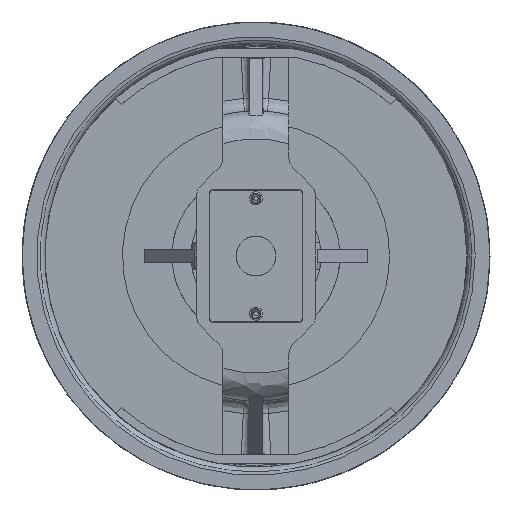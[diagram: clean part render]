
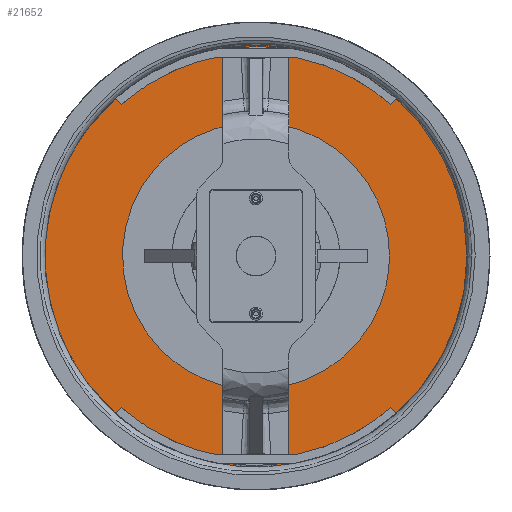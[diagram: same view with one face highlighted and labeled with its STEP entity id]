
A CAD part, front view. The second image highlights one B-rep face of the part: STEP entity #21652.
In plain terms, the highlighted free-form (B-spline) face has degree [1, 1] with [2, 2] control points.
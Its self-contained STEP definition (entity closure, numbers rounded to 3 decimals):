
#21594=CARTESIAN_POINT('V34',(40.5,21.5,
   0.));
#21595=VERTEX_POINT('V34',#21594);
#21603=CARTESIAN_POINT('E42',(40.5,21.5,
   0.));
#21604=CARTESIAN_POINT('E42',(40.5,21.5,
   70.148));
#21605=CARTESIAN_POINT('E42',(-20.25,21.5,
   35.074));
#21606=CARTESIAN_POINT('E42',(-81.0,21.5,0.)
   );
#21607=CARTESIAN_POINT('E42',(-20.25,21.5,
   -35.074));
#21608=CARTESIAN_POINT('E42',(40.5,21.5,
   -70.148));
#21609=CARTESIAN_POINT('E42',(40.5,21.5,
   0.));
#21617=(BOUNDED_CURVE()B_SPLINE_CURVE(2,(#21603,#21604,#21605,
   #21606,#21607,#21608,#21609),.CIRCULAR_ARC.,.T.,.U.)
   B_SPLINE_CURVE_WITH_KNOTS((3,2,2,3),(0.0,35.074,
   70.148,105.222),.UNSPECIFIED.)CURVE()
   GEOMETRIC_REPRESENTATION_ITEM()RATIONAL_B_SPLINE_CURVE((1.0,
   0.5,1.0,0.5,1.0,0.5,1.0)
   )REPRESENTATION_ITEM('E42'));
#21618=EDGE_CURVE('E42',#21595,#21595,#21617,.T.);
#21623=CARTESIAN_POINT('F11',(70.4,21.5,
   -70.4));
#21624=CARTESIAN_POINT('F11',(70.4,21.5,
   70.4));
#21625=CARTESIAN_POINT('F11',(-70.4,21.5,
   -70.4));
#21626=CARTESIAN_POINT('F11',(-70.4,21.5,
   70.4));
#21627=QUASI_UNIFORM_SURFACE('F11',1,1,((#21623,#21625),(#21624,
   #21626)),.PLANE_SURF.,.F.,.F.,.U.);
#21628=CARTESIAN_POINT('V33',(64.,21.5,
   0.));
#21629=VERTEX_POINT('V33',#21628);
#21630=CARTESIAN_POINT('E41',(64.,21.5,
   0.));
#21631=CARTESIAN_POINT('E41',(64.,21.5,
   -110.851));
#21632=CARTESIAN_POINT('E41',(-32.,21.5,
   -55.426));
#21633=CARTESIAN_POINT('E41',(-128.,
   21.5,0.));
#21634=CARTESIAN_POINT('E41',(-32.,21.5,
   55.426));
#21635=CARTESIAN_POINT('E41',(64.,21.5,
   110.851));
#21636=CARTESIAN_POINT('E41',(64.,21.5,
   0.));
#21644=(BOUNDED_CURVE()B_SPLINE_CURVE(2,(#21630,#21631,#21632,
   #21633,#21634,#21635,#21636),.CIRCULAR_ARC.,.T.,.U.)
   B_SPLINE_CURVE_WITH_KNOTS((3,2,2,3),(0.0,11.669,
   23.337,35.006),.UNSPECIFIED.)CURVE()
   GEOMETRIC_REPRESENTATION_ITEM()RATIONAL_B_SPLINE_CURVE((1.0,
   0.5,1.0,0.5,1.0,0.5,1.0)
   )REPRESENTATION_ITEM('E41'));
#21645=EDGE_CURVE('E41',#21629,#21629,#21644,.T.);
#21646=ORIENTED_EDGE('E41',*,*,#21645,.F.);
#21647=EDGE_LOOP('F11',(#21646));
#21648=FACE_OUTER_BOUND('F11',#21647,.T.);
#21649=ORIENTED_EDGE('F20',*,*,#21618,.F.);
#21650=EDGE_LOOP('F11',(#21649));
#21651=FACE_BOUND('F11',#21650,.T.);
#21652=ADVANCED_FACE('F11',(#21648,#21651),#21627,.T.);
